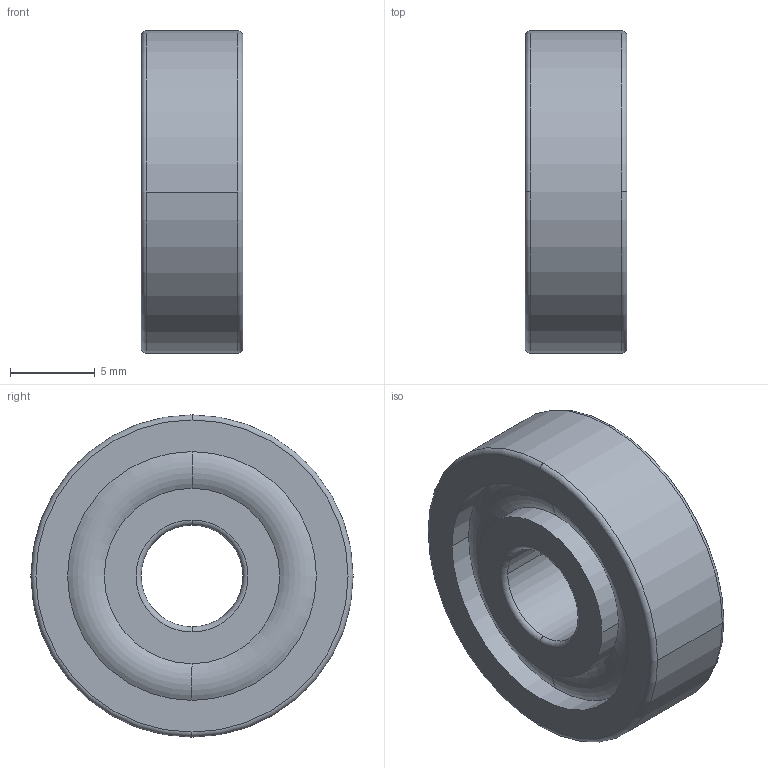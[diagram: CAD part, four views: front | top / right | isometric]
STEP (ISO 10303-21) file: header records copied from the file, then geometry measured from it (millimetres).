
FILE_DESCRIPTION((''),'2;1');
FILE_NAME('W:\214-213.stp','2004-01-23T15:30:34',('KAA'),(''),'Autodesk Inventor (R) 6.0','Autodesk Inventor (R) 6.0','');
FILE_SCHEMA(('CONFIG_CONTROL_DESIGN'));
Length unit declared in the file: millimetre
Products named in the file (1): 214-213
Bounding box: 6 x 19 x 19 mm (x, y, z)
Volume: 908.5 mm3; surface area: 1645.4 mm2
Topology: 1 solids, 2 shells, 32 faces, 84 edges, 56 vertices
Faces by surface type: torus 16, cylinder 12, plane 4
Entity records: 1141 total; most frequent: DIRECTION 222, CARTESIAN_POINT 173, ORIENTED_EDGE 168, AXIS2_PLACEMENT_3D 105, EDGE_CURVE 84, CIRCLE 72, VERTEX_POINT 56, EDGE_LOOP 36
